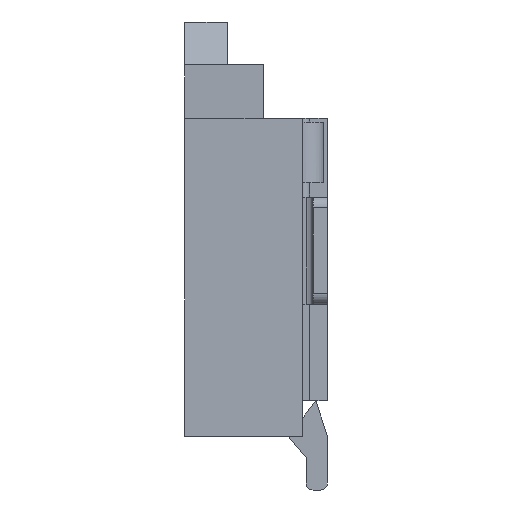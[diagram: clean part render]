
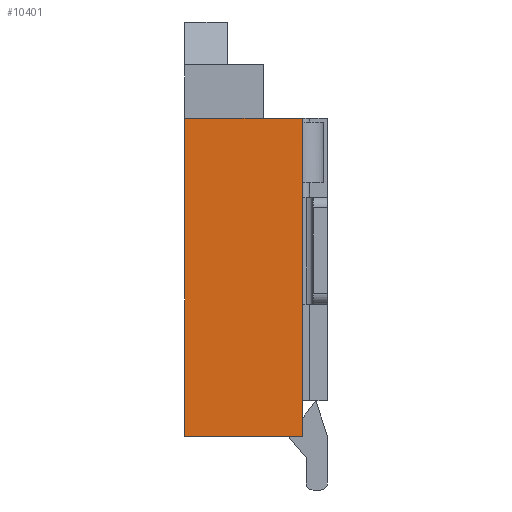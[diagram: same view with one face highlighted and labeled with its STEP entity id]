
A CAD part, left-side view. The second image highlights one B-rep face of the part: STEP entity #10401.
In plain terms, the highlighted planar face has unit normal (-1, 0, 0).
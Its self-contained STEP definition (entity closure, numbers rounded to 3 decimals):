
#209=DIRECTION('',(0.,0.,1.));
#210=VECTOR('',#209,4.45);
#211=CARTESIAN_POINT('',(-9.9,-0.65,0.));
#212=LINE('',#211,#210);
#2589=DIRECTION('',(0.,1.,0.));
#2590=VECTOR('',#2589,1.65);
#2591=CARTESIAN_POINT('',(-9.9,-0.65,4.45));
#2592=LINE('',#2591,#2590);
#2718=DIRECTION('',(0.,0.,1.));
#2719=VECTOR('',#2718,4.45);
#2720=CARTESIAN_POINT('',(-9.9,1.,0.));
#2721=LINE('',#2720,#2719);
#2722=DIRECTION('',(0.,1.,0.));
#2723=VECTOR('',#2722,1.65);
#2724=CARTESIAN_POINT('',(-9.9,-0.65,0.));
#2725=LINE('',#2724,#2723);
#5147=CARTESIAN_POINT('',(-9.9,-0.65,0.));
#5148=CARTESIAN_POINT('',(-9.9,1.,0.));
#5149=VERTEX_POINT('',#5147);
#5150=VERTEX_POINT('',#5148);
#5207=CARTESIAN_POINT('',(-9.9,1.,4.45));
#5208=VERTEX_POINT('',#5207);
#5245=CARTESIAN_POINT('',(-9.9,-0.65,4.45));
#5246=VERTEX_POINT('',#5245);
#10390=CARTESIAN_POINT('',(-9.9,1.,4.45));
#10391=DIRECTION('',(-1.,0.,0.));
#10392=DIRECTION('',(0.,0.,-1.));
#10393=AXIS2_PLACEMENT_3D('',#10390,#10391,#10392);
#10394=PLANE('',#10393);
#10395=ORIENTED_EDGE('',*,*,#9132,.T.);
#10396=ORIENTED_EDGE('',*,*,#10190,.F.);
#10397=ORIENTED_EDGE('',*,*,#6979,.F.);
#10398=ORIENTED_EDGE('',*,*,#6818,.T.);
#10399=EDGE_LOOP('',(#10395,#10396,#10397,#10398));
#10400=FACE_OUTER_BOUND('',#10399,.F.);
#6818=EDGE_CURVE('',#5149,#5150,#2725,.T.);
#6979=EDGE_CURVE('',#5149,#5246,#212,.T.);
#9132=EDGE_CURVE('',#5150,#5208,#2721,.T.);
#10190=EDGE_CURVE('',#5246,#5208,#2592,.T.);
#10401=ADVANCED_FACE('',(#10400),#10394,.T.);
